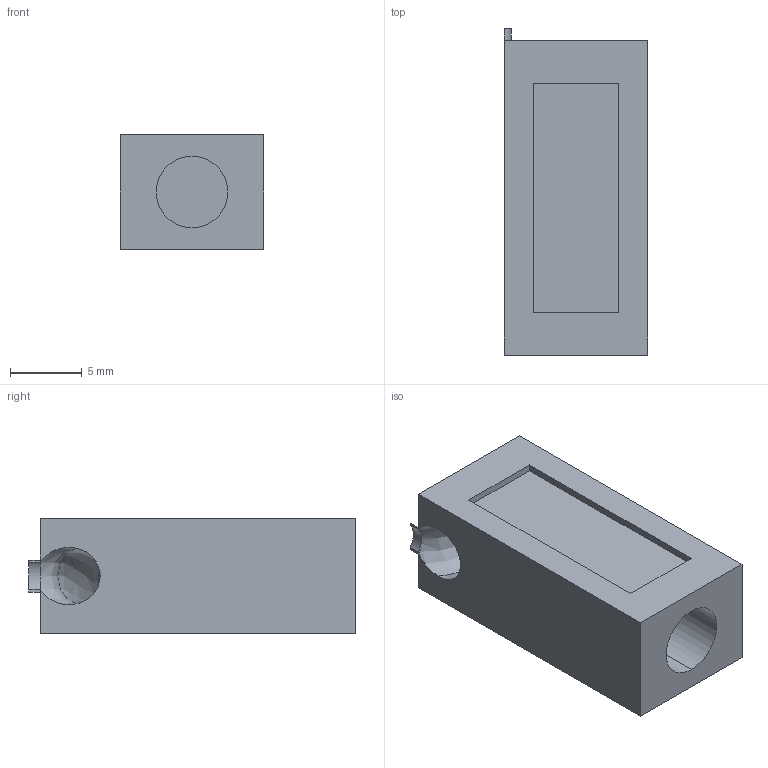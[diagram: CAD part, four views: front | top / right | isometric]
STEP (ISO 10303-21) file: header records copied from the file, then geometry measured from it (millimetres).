
FILE_DESCRIPTION (( 'STEP AP214' ), '1' );
FILE_NAME ('BR1060-10x8x22x0,8.STEP', '2020-06-22T12:42:38', ( '' ), ( '' ), 'SwSTEP 2.0', 'SolidWorks 2018', '' );
FILE_SCHEMA (( 'AUTOMOTIVE_DESIGN' ));
Length unit declared in the file: millimetre
Products named in the file (1): BR1060-10x8x22x0,8
Bounding box: 10 x 22.8 x 8 mm (x, y, z)
Volume: 1327.3 mm3; surface area: 1268.3 mm2
Topology: 1 solids, 1 shells, 26 faces, 62 edges, 40 vertices
Faces by surface type: plane 20, bspline 3, cylinder 3
Entity records: 1103 total; most frequent: CARTESIAN_POINT 477, ORIENTED_EDGE 124, DIRECTION 111, EDGE_CURVE 62, LINE 47, VECTOR 47, VERTEX_POINT 40, AXIS2_PLACEMENT_3D 32
